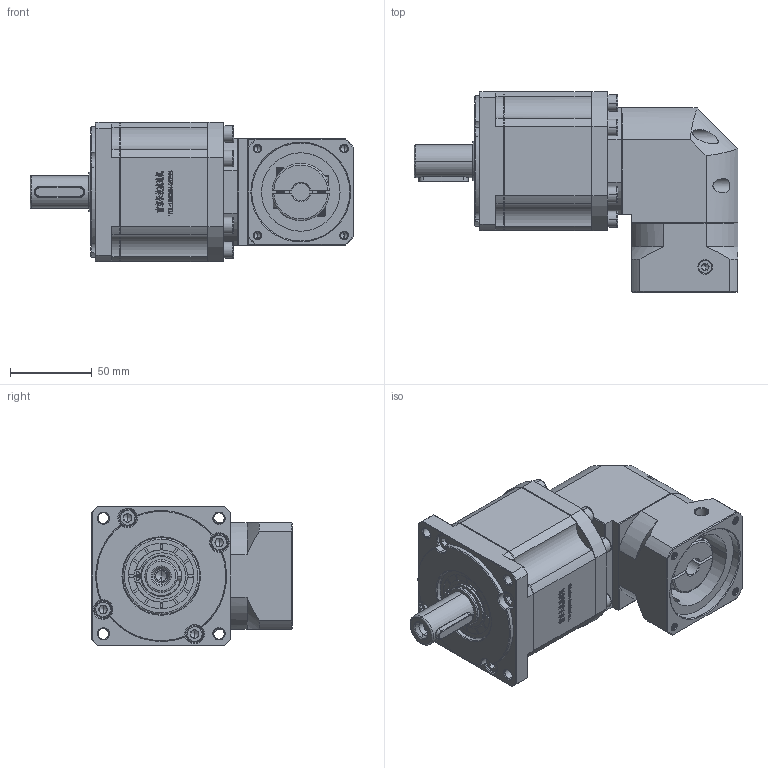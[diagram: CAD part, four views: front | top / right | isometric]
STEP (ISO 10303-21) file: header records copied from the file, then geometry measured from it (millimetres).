
FILE_DESCRIPTION (( 'STEP AP214' ), '1' );
FILE_NAME ('ZBR90-D20-L3-11-60-75-M5.step', '2022-05-07T15:17:26', ( '' ), ( 'Microsoft' ), 'SwSTEP 2.0', 'SolidWorks 2016', '' );
FILE_SCHEMA (( 'AUTOMOTIVE_DESIGN' ));
Length unit declared in the file: millimetre
Products named in the file (1): ZBR90-D20-L3-11-60-75-M5
Bounding box: 198 x 122.7 x 85 mm (x, y, z)
Volume: 936226.9 mm3; surface area: 106748.8 mm2
Topology: 5 solids, 5 shells, 3040 faces, 8136 edges, 5240 vertices
Faces by surface type: plane 1598, bspline 620, cylinder 445, cone 369, torus 8
Entity records: 163661 total; most frequent: CARTESIAN_POINT 58992, ORIENTED_EDGE 16180, DIRECTION 12428, EDGE_CURVE 8090, LINE 5350, VECTOR 5350, VERTEX_POINT 5240, AXIS2_PLACEMENT_3D 3539
